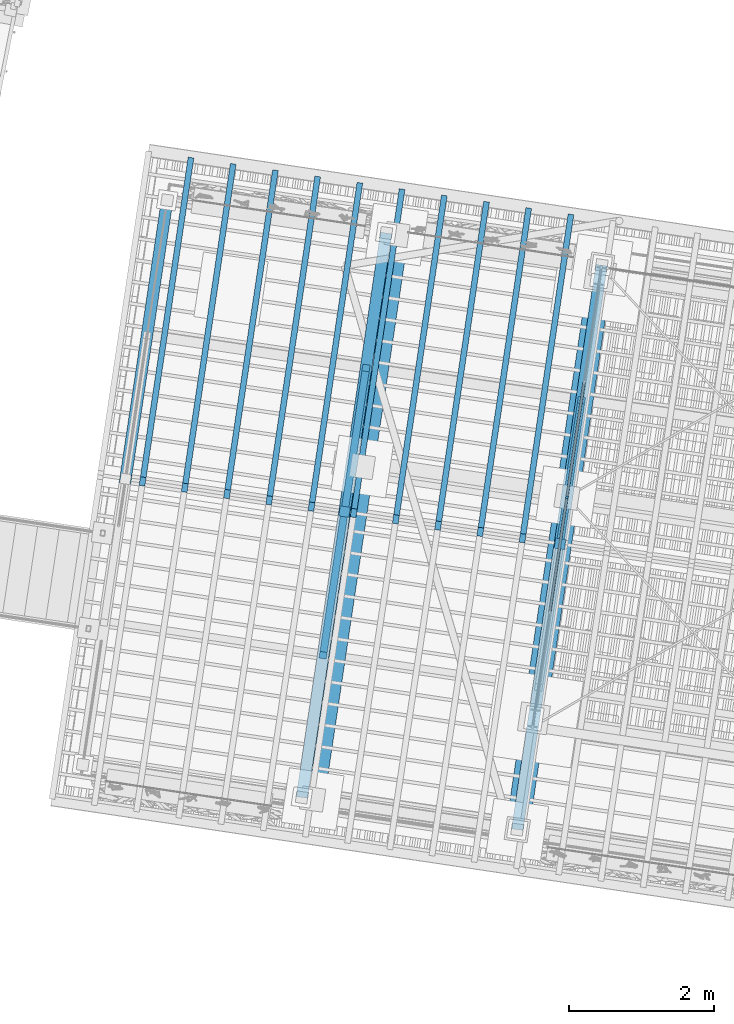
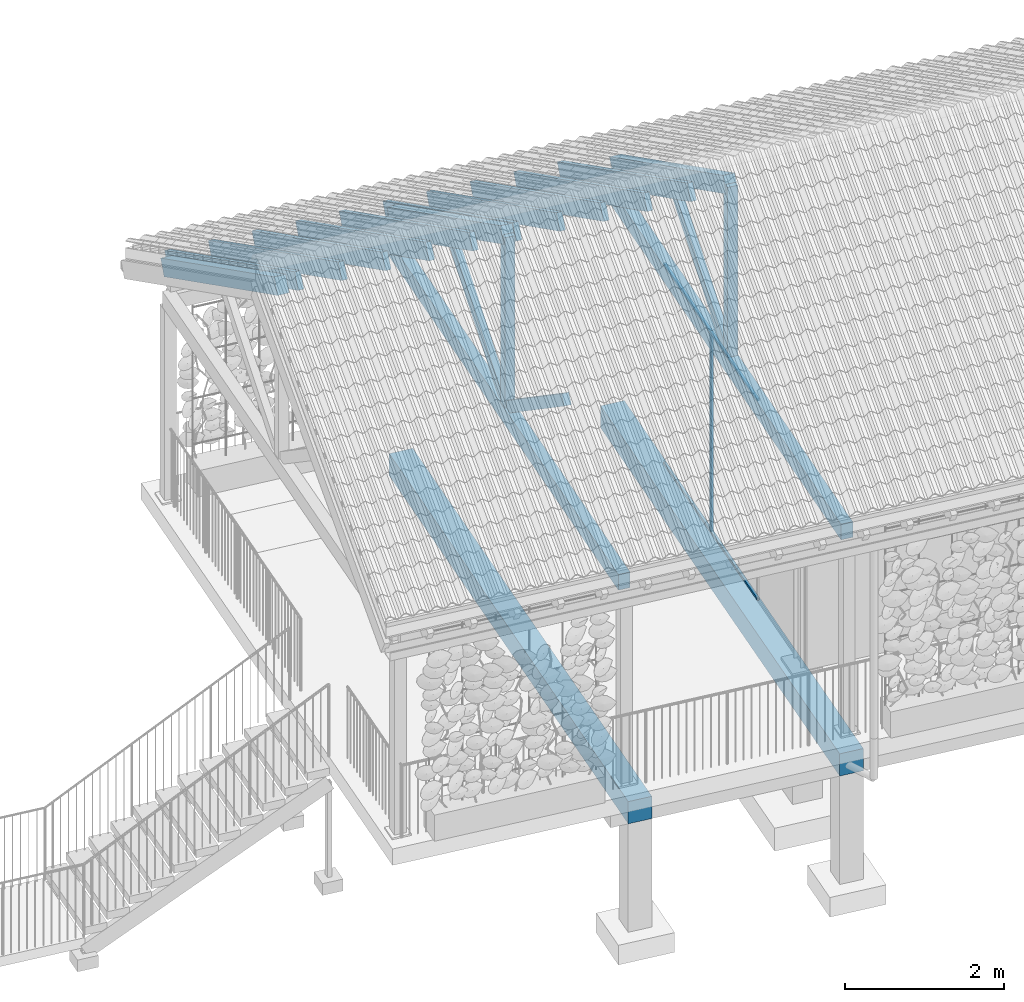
# One storey, part 25 of 131: 24 members, 4 beams, 2 elements without a shape of their own.
"""IFC4 building model written with IfcOpenShell, lengths in metres."""

from ifc_helpers import new_model, si_unit, direction, frame, origin_with_axes, place, context, subcontext, project, spatial, polyline, rectangle, outline, extrude, material, material_profile, profile_set, profile_usage, type_object, element, aggregate, save


model = new_model("IFC4")

# Units and contexts
model_context = context("Model", 3, precision=1e-05, world=origin_with_axes(), true_north=direction((0.0, 1.0)))
body_context = subcontext(model_context, "Body", "Model", "MODEL_VIEW")
ifc_project = project(units=[si_unit("AREAUNIT", "SQUARE_METRE"), si_unit("VOLUMEUNIT", "CUBIC_METRE"), si_unit("LENGTHUNIT", "METRE")], contexts=[model_context])

# Site, building, storey
site_placement = place(None, origin_with_axes())
site = spatial("IfcSite", under=ifc_project, at=site_placement, Name="Lares · Rua das Mercês · artigo 4771")
building_placement = place(site_placement, frame((15.0, 9.7, 14.65), z_axis=(0.0, 0.0, 1.0), x_axis=(0.989015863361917, -0.147809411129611, 0.0)))
building = spatial("IfcBuilding", under=site, at=building_placement, Name="Casa Sobreposta")
storey_placement = place(building_placement, origin_with_axes())
storey = spatial("IfcBuildingStorey", under=building, at=storey_placement, Name="00 · Habitação e estacionamento", Elevation=14.65)

# Members
ifc_material_1 = material(Name="Aço pintado / Stahl lackiert", Category="steel")
ifc_material_profile_1 = material_profile(ifc_material_1, rectangle(XDim=0.035, YDim=0.035))
ifc_profile_set_1 = profile_set([ifc_material_profile_1], Name="R0.035")
ifc_profile_usage_1 = profile_usage(ifc_profile_set_1)
member_type_1 = type_object("IfcMemberType", Name="R0.035 / steel", PredefinedType="NOTDEFINED", material=ifc_profile_set_1)
member_1_placement = place(storey_placement, frame((0.0, 3.2, 0.0), z_axis=(0.0, 0.0, 1.0), x_axis=(1.0, 0.0, 0.0)))
element("IfcMember", 1, at=member_1_placement, inside=storey, type_object=member_type_1, material=ifc_profile_usage_1, context=body_context, shape_type="SweptSolid", body=[
    extrude(rectangle(XDim=0.035, YDim=0.035), origin_with_axes(), (0.0, 0.0, 1.0), 3.05),
])
ifc_profile_usage_2 = profile_usage(ifc_profile_set_1)
member_2_placement = place(storey_placement, frame((0.0, 1.6, 0.0), z_axis=(0.0, 1.0, 0.0), x_axis=(1.0, 0.0, 0.0)))
element("IfcMember", 2, at=member_2_placement, inside=storey, type_object=member_type_1, material=ifc_profile_usage_2, Name="Fachada poente integralmente envidraçada · módulo 2 · travessa", context=body_context, shape_type="SweptSolid", body=[
    extrude(rectangle(XDim=0.035, YDim=0.035), origin_with_axes(), (0.0, 0.0, 1.0), 1.6),
])
ifc_profile_usage_3 = profile_usage(ifc_profile_set_1)
member_3_placement = place(storey_placement, frame((0.0, 1.6, 3.05), z_axis=(0.0, 1.0, 0.0), x_axis=(1.0, 0.0, 0.0)))
element("IfcMember", 3, at=member_3_placement, inside=storey, type_object=member_type_1, material=ifc_profile_usage_3, Name="Fachada poente integralmente envidraçada · módulo 2 · travessa", context=body_context, shape_type="SweptSolid", body=[
    extrude(rectangle(XDim=0.035, YDim=0.035), origin_with_axes(), (0.0, 0.0, 1.0), 1.6),
])
ifc_profile_usage_4 = profile_usage(ifc_profile_set_1)
member_4_placement = place(storey_placement, frame((0.0, 3.2, 0.0), z_axis=(0.0, 0.0, 1.0), x_axis=(1.0, 0.0, 0.0)))
element("IfcMember", 4, at=member_4_placement, inside=storey, type_object=member_type_1, material=ifc_profile_usage_4, context=body_context, shape_type="SweptSolid", body=[
    extrude(rectangle(XDim=0.035, YDim=0.035), origin_with_axes(), (0.0, 0.0, 1.0), 3.05),
])
ifc_profile_usage_5 = profile_usage(ifc_profile_set_1)
member_5_placement = place(storey_placement, frame((0.0, 3.2, 0.0), z_axis=(0.0, 1.0, 0.0), x_axis=(1.0, 0.0, 0.0)))
element("IfcMember", 5, at=member_5_placement, inside=storey, type_object=member_type_1, material=ifc_profile_usage_5, Name="Fachada poente integralmente envidraçada · módulo 3 · travessa", context=body_context, shape_type="SweptSolid", body=[
    extrude(rectangle(XDim=0.035, YDim=0.035), origin_with_axes(), (0.0, 0.0, 1.0), 1.6),
])
ifc_profile_usage_6 = profile_usage(ifc_profile_set_1)
member_6_placement = place(storey_placement, frame((0.0, 3.2, 3.05), z_axis=(0.0, 1.0, 0.0), x_axis=(1.0, 0.0, 0.0)))
element("IfcMember", 6, at=member_6_placement, inside=storey, type_object=member_type_1, material=ifc_profile_usage_6, Name="Fachada poente integralmente envidraçada · módulo 3 · travessa", context=body_context, shape_type="SweptSolid", body=[
    extrude(rectangle(XDim=0.035, YDim=0.035), origin_with_axes(), (0.0, 0.0, 1.0), 1.6),
])

# Roof, beams, members
ifc_material_2 = material(Name="Madeira / Bauholz", Category="wood")
roof_placement = place(storey_placement, origin_with_axes())
roof = element("IfcRoof", 7, at=roof_placement, inside=storey, material=ifc_material_2, Name="Cobertura de telha · duas águas 30 graus", PredefinedType="GABLE_ROOF")
ifc_material_profile_2 = material_profile(ifc_material_2, rectangle(XDim=0.16, YDim=0.24))
ifc_profile_set_2 = profile_set([ifc_material_profile_2], Name="TIMBER0.160x0.240")
ifc_profile_usage_7 = profile_usage(ifc_profile_set_2)
beam_type = type_object("IfcBeamType", Name="TIMBER0.160x0.240 / timber", PredefinedType="NOTDEFINED", material=ifc_profile_set_2)
beam_1_placement = place(roof_placement, frame((-3.0, -1.43, 3.02), z_axis=(0.0, 1.0, 0.0), x_axis=(1.0, 0.0, 0.0)))
beam_1 = element("IfcBeam", 8, at=beam_1_placement, type_object=beam_type, material=ifc_profile_usage_7, Name="Tesoura · tirante inferior", context=body_context, shape_type="SweptSolid", body=[
    extrude(rectangle(XDim=0.16, YDim=0.24), origin_with_axes(), (0.0, 0.0, 1.0), 7.86),
])
ifc_profile_usage_8 = profile_usage(ifc_profile_set_2)
beam_2_placement = place(roof_placement, frame((0.0, -1.43, 3.02), z_axis=(0.0, 1.0, 0.0), x_axis=(1.0, 0.0, 0.0)))
beam_2 = element("IfcBeam", 9, at=beam_2_placement, type_object=beam_type, material=ifc_profile_usage_8, Name="Tesoura · tirante inferior", context=body_context, shape_type="SweptSolid", body=[
    extrude(rectangle(XDim=0.16, YDim=0.24), origin_with_axes(), (0.0, 0.0, 1.0), 7.86),
])
ifc_material_profile_3 = material_profile(ifc_material_2, rectangle(XDim=0.16, YDim=0.24))
ifc_profile_set_3 = profile_set([ifc_material_profile_3], Name="TIMBER0.160x0.240")
ifc_profile_usage_9 = profile_usage(ifc_profile_set_3)
member_type_2 = type_object("IfcMemberType", Name="TIMBER0.160x0.240 / timber", PredefinedType="NOTDEFINED", material=ifc_profile_set_3)
member_7_placement = place(roof_placement, frame((-6.05, 2.55, 5.74420869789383), z_axis=(0.0, 0.866025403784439, -0.5), x_axis=(1.0, 0.0, 0.0)))
member_7 = element("IfcMember", 10, at=member_7_placement, type_object=member_type_2, material=ifc_profile_usage_9, Name="Tesoura · perna", context=body_context, shape_type="SweptSolid", body=[
    extrude(rectangle(XDim=0.16, YDim=0.24), origin_with_axes(), (0.0, 0.0, 1.0), 4.4802380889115),
])
ifc_profile_usage_10 = profile_usage(ifc_profile_set_3)
member_8_placement = place(roof_placement, frame((-3.0, 2.55, 5.74420869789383), z_axis=(0.0, 0.866025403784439, -0.5), x_axis=(1.0, 0.0, 0.0)))
member_8 = element("IfcMember", 11, at=member_8_placement, type_object=member_type_2, material=ifc_profile_usage_10, Name="Tesoura · perna", context=body_context, shape_type="SweptSolid", body=[
    extrude(rectangle(XDim=0.16, YDim=0.24), origin_with_axes(), (0.0, 0.0, 1.0), 4.4802380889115),
])
ifc_profile_usage_11 = profile_usage(ifc_profile_set_3)
member_9_placement = place(roof_placement, frame((0.0, 2.55, 5.74420869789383), z_axis=(0.0, 0.866025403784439, -0.5), x_axis=(1.0, 0.0, 0.0)))
member_9 = element("IfcMember", 12, at=member_9_placement, type_object=member_type_2, material=ifc_profile_usage_11, Name="Tesoura · perna", context=body_context, shape_type="SweptSolid", body=[
    extrude(rectangle(XDim=0.16, YDim=0.24), origin_with_axes(), (0.0, 0.0, 1.0), 4.4802380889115),
])
ifc_material_profile_4 = material_profile(ifc_material_2, rectangle(XDim=0.14, YDim=0.14))
ifc_profile_set_4 = profile_set([ifc_material_profile_4], Name="TIMBER0.140x0.140")
ifc_profile_usage_12 = profile_usage(ifc_profile_set_4)
member_type_3 = type_object("IfcMemberType", Name="TIMBER0.140x0.140 / timber", PredefinedType="NOTDEFINED", material=ifc_profile_set_4)
member_10_placement = place(roof_placement, frame((-3.0, 2.55, 3.02), z_axis=(0.0, 0.0, 1.0), x_axis=(1.0, 0.0, 0.0)))
member_10 = element("IfcMember", 13, at=member_10_placement, type_object=member_type_3, material=ifc_profile_usage_12, Name="Tesoura · pendural", context=body_context, shape_type="SweptSolid", body=[
    extrude(rectangle(XDim=0.14, YDim=0.14), origin_with_axes(), (0.0, 0.0, 1.0), 2.72420869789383),
])
ifc_profile_usage_13 = profile_usage(ifc_profile_set_4)
member_11_placement = place(roof_placement, frame((0.0, 2.55, 3.02), z_axis=(0.0, 0.0, 1.0), x_axis=(1.0, 0.0, 0.0)))
member_11 = element("IfcMember", 14, at=member_11_placement, type_object=member_type_3, material=ifc_profile_usage_13, Name="Tesoura · pendural", context=body_context, shape_type="SweptSolid", body=[
    extrude(rectangle(XDim=0.14, YDim=0.14), origin_with_axes(), (0.0, 0.0, 1.0), 2.72420869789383),
])
ifc_material_profile_5 = material_profile(ifc_material_2, rectangle(XDim=0.1, YDim=0.16))
ifc_profile_set_5 = profile_set([ifc_material_profile_5], Name="TIMBER0.100x0.160")
ifc_profile_usage_14 = profile_usage(ifc_profile_set_5)
member_type_4 = type_object("IfcMemberType", Name="TIMBER0.100x0.160 / timber", PredefinedType="NOTDEFINED", material=ifc_profile_set_5)
member_12_placement = place(roof_placement, frame((-3.0, 2.55, 3.1), z_axis=(0.0, -0.816439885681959, 0.577430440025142), x_axis=(-1.0, 0.0, 0.0)))
member_12 = element("IfcMember", 15, at=member_12_placement, type_object=member_type_4, material=ifc_profile_usage_14, Name="Tesoura · escora", context=body_context, shape_type="SweptSolid", body=[
    extrude(rectangle(XDim=0.1, YDim=0.16), origin_with_axes(), (0.0, 0.0, 1.0), 2.44965984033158),
])
ifc_profile_usage_15 = profile_usage(ifc_profile_set_5)
member_13_placement = place(roof_placement, frame((-3.0, 2.55, 3.1), z_axis=(0.0, 0.816439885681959, 0.577430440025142), x_axis=(1.0, 0.0, 0.0)))
member_13 = element("IfcMember", 16, at=member_13_placement, type_object=member_type_4, material=ifc_profile_usage_15, Name="Tesoura · escora", context=body_context, shape_type="SweptSolid", body=[
    extrude(rectangle(XDim=0.1, YDim=0.16), origin_with_axes(), (0.0, 0.0, 1.0), 2.44965984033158),
])
ifc_profile_usage_16 = profile_usage(ifc_profile_set_5)
member_14_placement = place(roof_placement, frame((0.0, 2.55, 3.1), z_axis=(0.0, 0.816439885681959, 0.577430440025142), x_axis=(1.0, 0.0, 0.0)))
member_14 = element("IfcMember", 17, at=member_14_placement, type_object=member_type_4, material=ifc_profile_usage_16, Name="Tesoura · escora", context=body_context, shape_type="SweptSolid", body=[
    extrude(rectangle(XDim=0.1, YDim=0.16), origin_with_axes(), (0.0, 0.0, 1.0), 2.44965984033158),
])
ifc_material_profile_6 = material_profile(ifc_material_2, rectangle(XDim=0.08, YDim=0.24))
ifc_profile_set_6 = profile_set([ifc_material_profile_6], Name="TIMBER0.080x0.240")
ifc_profile_usage_17 = profile_usage(ifc_profile_set_6)
member_type_5 = type_object("IfcMemberType", Name="TIMBER0.080x0.240 / timber", PredefinedType="NOTDEFINED", material=ifc_profile_set_6)
member_15_placement = place(roof_placement, frame((-5.81212121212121, 2.55, 5.75020869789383), z_axis=(0.0, 0.866025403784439, -0.5), x_axis=(1.0, 0.0, 0.0)))
member_15 = element("IfcMember", 18, at=member_15_placement, type_object=member_type_5, material=ifc_profile_usage_17, Name="Cobertura · caibro", context=body_context, shape_type="SweptSolid", body=[
    extrude(rectangle(XDim=0.08, YDim=0.24), origin_with_axes(), (0.0, 0.0, 1.0), 5.13841739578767),
])
ifc_profile_usage_18 = profile_usage(ifc_profile_set_6)
member_16_placement = place(roof_placement, frame((-5.22424242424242, 2.55, 5.75020869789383), z_axis=(0.0, 0.866025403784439, -0.5), x_axis=(1.0, 0.0, 0.0)))
member_16 = element("IfcMember", 19, at=member_16_placement, type_object=member_type_5, material=ifc_profile_usage_18, Name="Cobertura · caibro", context=body_context, shape_type="SweptSolid", body=[
    extrude(rectangle(XDim=0.08, YDim=0.24), origin_with_axes(), (0.0, 0.0, 1.0), 5.13841739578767),
])
ifc_profile_usage_19 = profile_usage(ifc_profile_set_6)
member_17_placement = place(roof_placement, frame((-4.63636363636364, 2.55, 5.75020869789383), z_axis=(0.0, 0.866025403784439, -0.5), x_axis=(1.0, 0.0, 0.0)))
member_17 = element("IfcMember", 20, at=member_17_placement, type_object=member_type_5, material=ifc_profile_usage_19, Name="Cobertura · caibro", context=body_context, shape_type="SweptSolid", body=[
    extrude(rectangle(XDim=0.08, YDim=0.24), origin_with_axes(), (0.0, 0.0, 1.0), 5.13841739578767),
])
ifc_profile_usage_20 = profile_usage(ifc_profile_set_6)
member_18_placement = place(roof_placement, frame((-4.04848484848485, 2.55, 5.75020869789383), z_axis=(0.0, 0.866025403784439, -0.5), x_axis=(1.0, 0.0, 0.0)))
member_18 = element("IfcMember", 21, at=member_18_placement, type_object=member_type_5, material=ifc_profile_usage_20, Name="Cobertura · caibro", context=body_context, shape_type="SweptSolid", body=[
    extrude(rectangle(XDim=0.08, YDim=0.24), origin_with_axes(), (0.0, 0.0, 1.0), 5.13841739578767),
])
ifc_profile_usage_21 = profile_usage(ifc_profile_set_6)
member_19_placement = place(roof_placement, frame((-3.46060606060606, 2.55, 5.75020869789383), z_axis=(0.0, 0.866025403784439, -0.5), x_axis=(1.0, 0.0, 0.0)))
member_19 = element("IfcMember", 22, at=member_19_placement, type_object=member_type_5, material=ifc_profile_usage_21, Name="Cobertura · caibro", context=body_context, shape_type="SweptSolid", body=[
    extrude(rectangle(XDim=0.08, YDim=0.24), origin_with_axes(), (0.0, 0.0, 1.0), 5.13841739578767),
])
ifc_profile_usage_22 = profile_usage(ifc_profile_set_6)
member_20_placement = place(roof_placement, frame((-2.87272727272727, 2.55, 5.75020869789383), z_axis=(0.0, 0.866025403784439, -0.5), x_axis=(1.0, 0.0, 0.0)))
member_20 = element("IfcMember", 23, at=member_20_placement, type_object=member_type_5, material=ifc_profile_usage_22, Name="Cobertura · caibro", context=body_context, shape_type="SweptSolid", body=[
    extrude(rectangle(XDim=0.08, YDim=0.24), origin_with_axes(), (0.0, 0.0, 1.0), 5.13841739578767),
])
ifc_profile_usage_23 = profile_usage(ifc_profile_set_6)
member_21_placement = place(roof_placement, frame((-2.28484848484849, 2.55, 5.75020869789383), z_axis=(0.0, 0.866025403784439, -0.5), x_axis=(1.0, 0.0, 0.0)))
member_21 = element("IfcMember", 24, at=member_21_placement, type_object=member_type_5, material=ifc_profile_usage_23, Name="Cobertura · caibro", context=body_context, shape_type="SweptSolid", body=[
    extrude(rectangle(XDim=0.08, YDim=0.24), origin_with_axes(), (0.0, 0.0, 1.0), 5.13841739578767),
])
ifc_profile_usage_24 = profile_usage(ifc_profile_set_6)
member_22_placement = place(roof_placement, frame((-1.6969696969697, 2.55, 5.75020869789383), z_axis=(0.0, 0.866025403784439, -0.5), x_axis=(1.0, 0.0, 0.0)))
member_22 = element("IfcMember", 25, at=member_22_placement, type_object=member_type_5, material=ifc_profile_usage_24, Name="Cobertura · caibro", context=body_context, shape_type="SweptSolid", body=[
    extrude(rectangle(XDim=0.08, YDim=0.24), origin_with_axes(), (0.0, 0.0, 1.0), 5.13841739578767),
])
ifc_profile_usage_25 = profile_usage(ifc_profile_set_6)
member_23_placement = place(roof_placement, frame((-1.10909090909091, 2.55, 5.75020869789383), z_axis=(0.0, 0.866025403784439, -0.5), x_axis=(1.0, 0.0, 0.0)))
member_23 = element("IfcMember", 26, at=member_23_placement, type_object=member_type_5, material=ifc_profile_usage_25, Name="Cobertura · caibro", context=body_context, shape_type="SweptSolid", body=[
    extrude(rectangle(XDim=0.08, YDim=0.24), origin_with_axes(), (0.0, 0.0, 1.0), 5.13841739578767),
])
ifc_profile_usage_26 = profile_usage(ifc_profile_set_6)
member_24_placement = place(roof_placement, frame((-0.521212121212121, 2.55, 5.75020869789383), z_axis=(0.0, 0.866025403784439, -0.5), x_axis=(1.0, 0.0, 0.0)))
member_24 = element("IfcMember", 27, at=member_24_placement, type_object=member_type_5, material=ifc_profile_usage_26, Name="Cobertura · caibro", context=body_context, shape_type="SweptSolid", body=[
    extrude(rectangle(XDim=0.08, YDim=0.24), origin_with_axes(), (0.0, 0.0, 1.0), 5.13841739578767),
])
aggregate(roof, [member_7, beam_1, member_8, member_10, member_12, member_13, beam_2, member_9, member_11, member_14, member_15, member_16, member_17, member_18, member_19, member_20, member_21, member_22, member_23, member_24])

# Assembly, beams
assembly_placement = place(storey_placement, origin_with_axes())
assembly = element("IfcElementAssembly", 28, at=assembly_placement, inside=storey, Name="Pódio · terraço, casa térrea e cisterna", ObjectType="CISTERN_PODIUM", PredefinedType="USERDEFINED")
ifc_material_3 = material(Name="Betão armado / Stahlbeton", Category="concrete")
beam_3_placement = place(assembly_placement, frame((0.0, 0.0, -0.59), z_axis=(0.0, 0.0, 1.0), x_axis=(1.0, 0.0, 0.0)))
beam_3 = element("IfcBeam", 29, at=beam_3_placement, material=ifc_material_3, Name="Pódio suspenso · viga transversal", context=body_context, shape_type="SweptSolid", body=[
    extrude(outline(polyline([(-2.69, -1.59), (-2.69, 6.59), (-3.01, 6.59), (-3.01, -1.59), (-2.69, -1.59)])), origin_with_axes(), (0.0, 0.0, 1.0), 0.34),
])
beam_4_placement = place(assembly_placement, frame((0.0, 0.0, -0.59), z_axis=(0.0, 0.0, 1.0), x_axis=(1.0, 0.0, 0.0)))
beam_4 = element("IfcBeam", 30, at=beam_4_placement, material=ifc_material_3, Name="Pódio suspenso · viga transversal", context=body_context, shape_type="SweptSolid", body=[
    extrude(outline(polyline([(0.16, -1.59), (0.16, 6.59), (-0.16, 6.59), (-0.16, -1.59), (0.16, -1.59)])), origin_with_axes(), (0.0, 0.0, 1.0), 0.34),
])
aggregate(assembly, [beam_3, beam_4])

save(model, "model.ifc")
